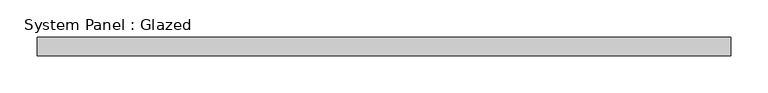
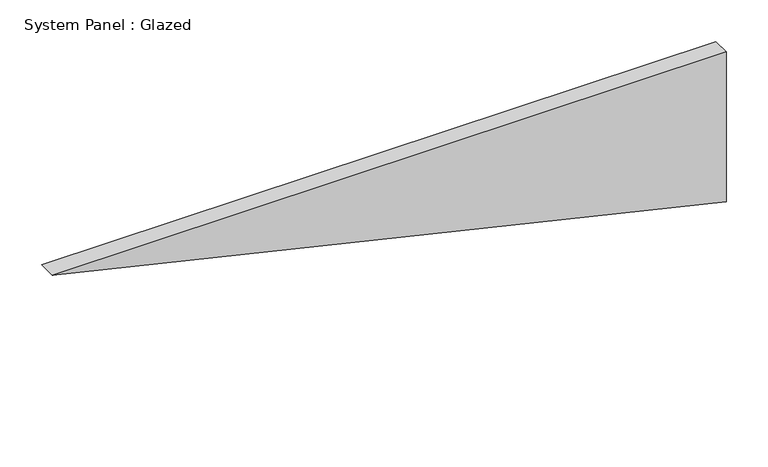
"""IFC4 building model written with IfcOpenShell, lengths in millimetres: plate geometry, System Panel : Glazed."""

from ifc_helpers import new_model, si_unit, frame, origin, place, context, project, spatial, polyline, outline, extrude, source, transform, mapped, element, save


def system_panel_glazed_e40008b7(model_context):
    return source(origin(), model_context, "Body", "SweptSolid", [
        extrude(outline(polyline([(219.7885202, -467.774091), (0.0, 467.774091), (219.7885202, 467.774091), (219.7885202, -467.774091)])), frame((0.0, 24.5, 0.0), z_axis=(0.0, 1.0, 0.0), x_axis=(0.0, 0.0, 1.0)), (0.0, 0.0, 1.0), 25.0),
    ])


if __name__ == "__main__":
    model = new_model("IFC4")
    model_context = context("Model", 3, world=origin())
    ifc_project = project(units=[si_unit("LENGTHUNIT", "METRE", prefix="MILLI")], contexts=[model_context])
    site = spatial("IfcSite", under=ifc_project)
    building = spatial("IfcBuilding", under=site)
    placement = place(None, origin())
    system_panel_glazed_shape = system_panel_glazed_e40008b7(model_context)
    element("IfcPlate", 1, ObjectType="System Panel : Glazed", at=placement, inside=building, context=model_context, shape_type="MappedRepresentation", body=[
        mapped(system_panel_glazed_shape, transform((0.0, 0.0, 0.0), x_axis=(1.0, 0.0, 0.0), y_axis=(0.0, 1.0, 0.0), z_axis=(0.0, 0.0, 1.0))),
    ])
    save(model, "model.ifc")
